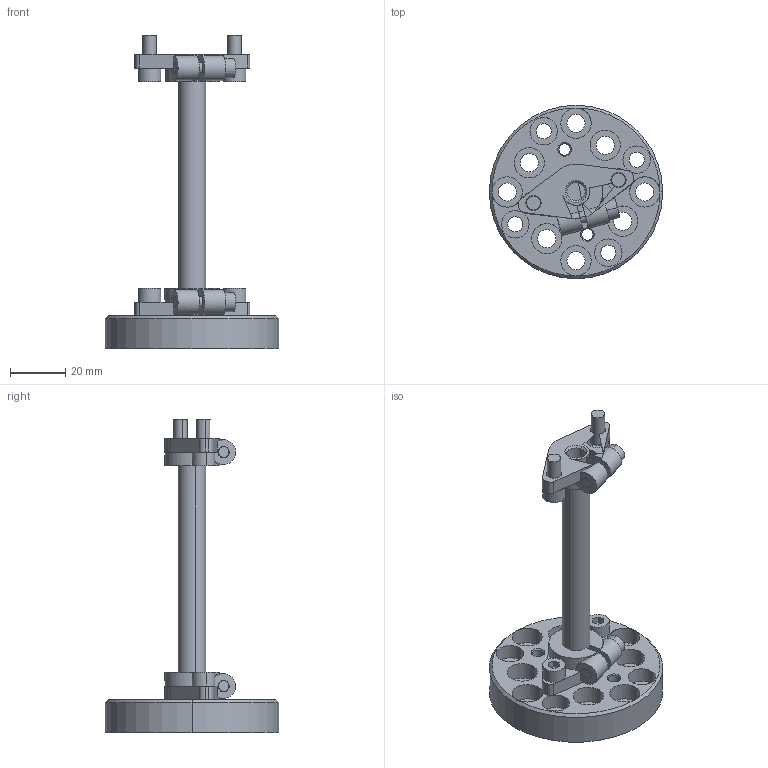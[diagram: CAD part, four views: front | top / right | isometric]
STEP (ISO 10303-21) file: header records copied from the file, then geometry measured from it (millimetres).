
FILE_DESCRIPTION (( 'STEP AP214' ), '1' );
FILE_NAME ('FCM_R04_02_02_.STEP', '2019-12-04T09:25:30', ( '微软用户' ), ( '微软中国' ), 'SwSTEP 2.0', 'SolidWorks 2016', '' );
FILE_SCHEMA (( 'AUTOMOTIVE_DESIGN' ));
Length unit declared in the file: millimetre
Products named in the file (1): FCM_R04_02_02_
Bounding box: 63 x 63 x 114 mm (x, y, z)
Volume: 44015 mm3; surface area: 22838.7 mm2
Topology: 2 solids, 2 shells, 290 faces, 713 edges, 457 vertices
Faces by surface type: cylinder 140, plane 124, cone 26
Entity records: 12055 total; most frequent: CARTESIAN_POINT 1615, DIRECTION 1612, ORIENTED_EDGE 1426, EDGE_CURVE 713, AXIS2_PLACEMENT_3D 624, VERTEX_POINT 457, VECTOR 364, LINE 364
